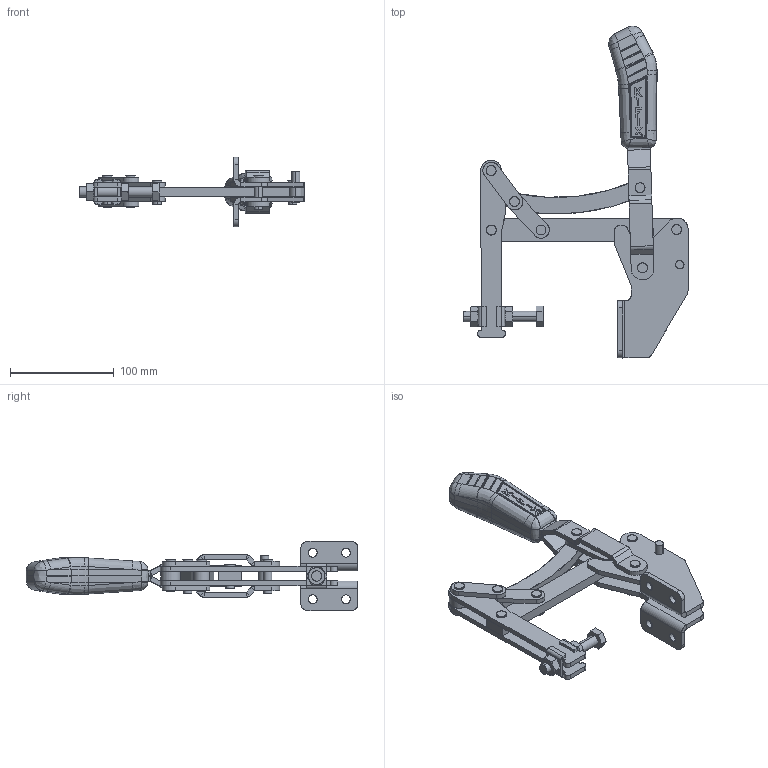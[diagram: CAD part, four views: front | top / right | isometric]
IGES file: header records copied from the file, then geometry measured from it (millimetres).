
Start section: SolidWorks IGES file using analytic representation for surfaces
Global section: file name: C:\Projetos\Grampos\KF-411\KF-411 DS A\KF-411 DS A.IGS; native system: SolidWorks 2013; preprocessor: SolidWorks 2013; author: Ricardo; date: 140909.111423; units: millimetre
Bounding box: 216.42 x 320.55 x 67 mm (x, y, z)
Surface area: 152625.1 mm2 (no closed solid volume)
Topology: 0 solids, 0 shells, 899 faces, 10970 edges, 10951 vertices
Faces by surface type: bspline 516, revolution 383
